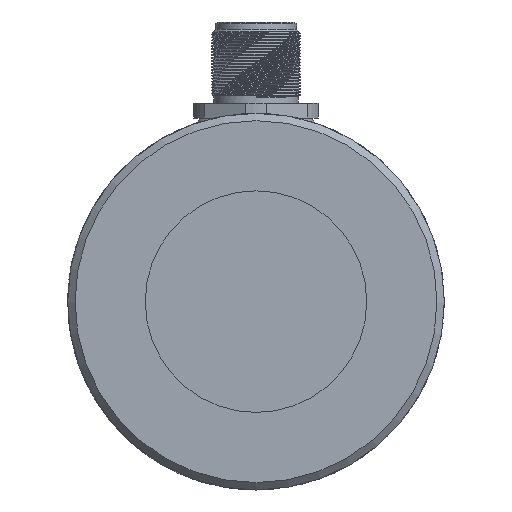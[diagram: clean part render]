
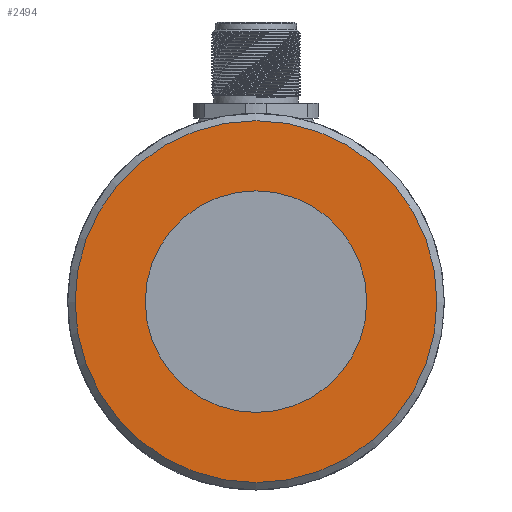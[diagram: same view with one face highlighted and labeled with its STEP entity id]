
A CAD part, left-side view. The second image highlights one B-rep face of the part: STEP entity #2494.
In plain terms, the highlighted planar face has unit normal (-1, 0, 0).
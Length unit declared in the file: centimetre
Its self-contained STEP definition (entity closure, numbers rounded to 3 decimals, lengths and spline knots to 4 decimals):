
#650=PLANE('',#2684);
#795=VERTEX_POINT('',#3250);
#796=VERTEX_POINT('',#3254);
#971=CIRCLE('',#2676,1.5);
#972=CIRCLE('',#2679,2.45);
#1110=EDGE_CURVE('',#795,#795,#971,.T.);
#1111=EDGE_CURVE('',#796,#796,#972,.T.);
#1475=ORIENTED_EDGE('',*,*,#1110,.T.);
#1476=ORIENTED_EDGE('',*,*,#1111,.F.);
#2063=EDGE_LOOP('',(#1475));
#2064=EDGE_LOOP('',(#1476));
#2287=FACE_BOUND('',#2063,.T.);
#2288=FACE_BOUND('',#2064,.T.);
#2494=ADVANCED_FACE('',(#2287,#2288),#650,.T.);
#2676=AXIS2_PLACEMENT_3D('',#3249,#14429,#14430);
#2679=AXIS2_PLACEMENT_3D('',#3253,#14434,#14435);
#2684=AXIS2_PLACEMENT_3D('',#3267,#14446,$);
#3249=CARTESIAN_POINT('',(0.,0.,0.));
#3250=CARTESIAN_POINT('',(0.,0.,1.5));
#3253=CARTESIAN_POINT('',(0.,0.,0.));
#3254=CARTESIAN_POINT('',(0.,0.,-2.45));
#3267=CARTESIAN_POINT('',(0.,0.,-1.275));
#14429=DIRECTION('',(1.,0.,0.));
#14430=DIRECTION('',(0.,0.,1.5));
#14434=DIRECTION('',(1.,0.,0.));
#14435=DIRECTION('',(0.,0.,2.45));
#14446=DIRECTION('',(-1.,0.,0.));
